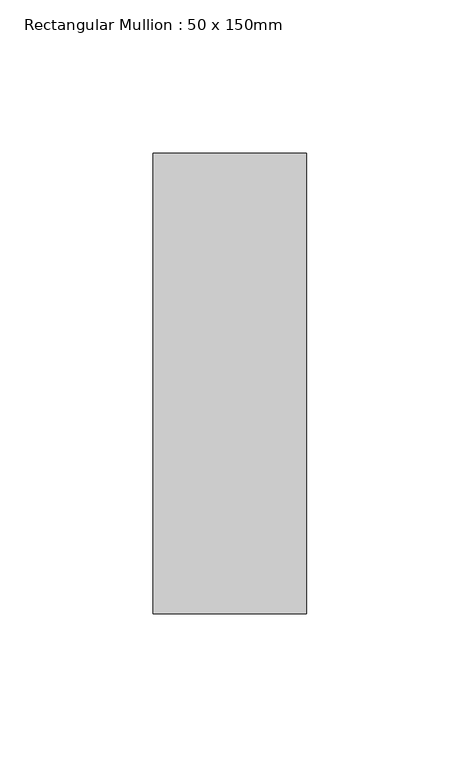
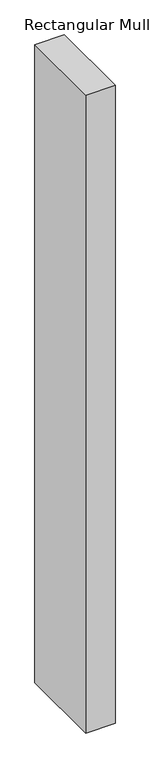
"""IFC4 building model written with IfcOpenShell, lengths in millimetres: member geometry, Rectangular Mullion : 50 x 150mm."""

from ifc_helpers import new_model, si_unit, frame, origin, place, context, project, spatial, polyline, outline, extrude, source, transform, mapped, element, save


def rectangular_mullion_50_x_150mm_771d268e(model_context):
    return source(origin(), model_context, "Body", "SweptSolid", [
        extrude(outline(polyline([(25.0, 75.0), (25.0, -75.0), (-25.0, -75.0), (-25.0, 75.0), (25.0, 75.0)])), frame((0.0, 0.0, -1150.0000002), z_axis=(0.0, 0.0, 1.0), x_axis=(1.0, 0.0, 0.0)), (0.0, 0.0, 1.0), 1150.0000002),
    ])


if __name__ == "__main__":
    model = new_model("IFC4")
    model_context = context("Model", 3, world=origin())
    ifc_project = project(units=[si_unit("LENGTHUNIT", "METRE", prefix="MILLI")], contexts=[model_context])
    site = spatial("IfcSite", under=ifc_project)
    building = spatial("IfcBuilding", under=site)
    placement = place(None, origin())
    rectangular_mullion_50_x_150mm_shape = rectangular_mullion_50_x_150mm_771d268e(model_context)
    element("IfcMember", 1, ObjectType="Rectangular Mullion : 50 x 150mm", at=placement, inside=building, context=model_context, shape_type="MappedRepresentation", body=[
        mapped(rectangular_mullion_50_x_150mm_shape, transform((0.0, 0.0, 0.0), x_axis=(1.0, 0.0, 0.0), y_axis=(0.0, 1.0, 0.0), z_axis=(0.0, 0.0, 1.0))),
    ])
    save(model, "model.ifc")
